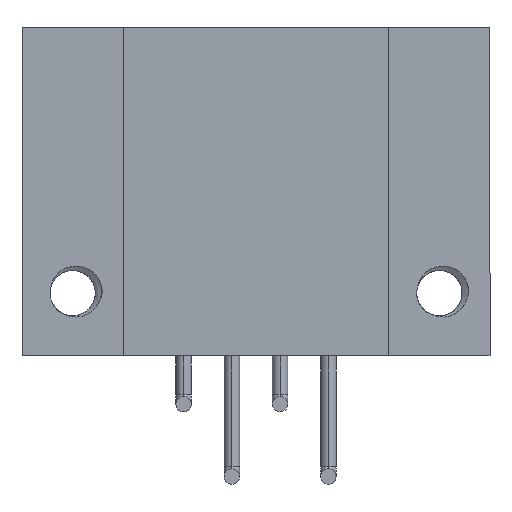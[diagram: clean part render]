
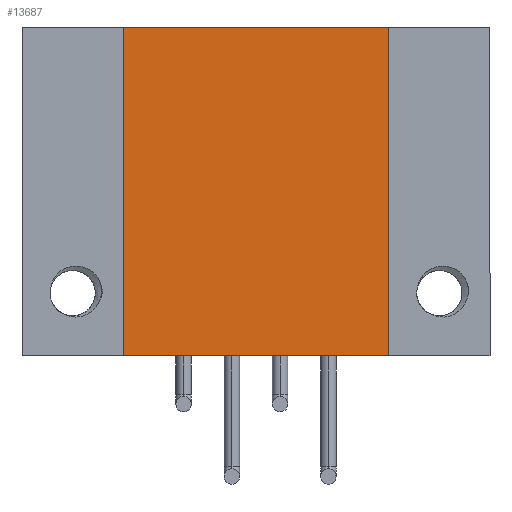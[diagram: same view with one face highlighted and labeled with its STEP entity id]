
A CAD part, front view. The second image highlights one B-rep face of the part: STEP entity #13687.
In plain terms, the highlighted planar face has unit normal (0, -1, 0).
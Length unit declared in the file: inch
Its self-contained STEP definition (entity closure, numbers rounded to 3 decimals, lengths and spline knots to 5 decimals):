
#1953 = LINE ( 'NONE', #24761, #14810 ) ;
#2292 = LINE ( 'NONE', #23001, #18619 ) ;
#3745 = EDGE_CURVE ( 'NONE', #18043, #12663, #12393, .T. ) ;
#3892 = CARTESIAN_POINT ( 'NONE',  ( 0.1375, -0.0625, 0. ) ) ;
#4606 = FACE_OUTER_BOUND ( 'NONE', #23978, .T. ) ;
#6869 = LINE ( 'NONE', #16395, #7207 ) ;
#7004 = DIRECTION ( 'NONE',  ( 0., -1., 0. ) ) ;
#7207 = VECTOR ( 'NONE', #20552, 39.37008 ) ;
#7355 = ORIENTED_EDGE ( 'NONE', *, *, #18179, .T. ) ;
#7435 = PLANE ( 'NONE',  #26032 ) ;
#8199 = CARTESIAN_POINT ( 'NONE',  ( 0.1375, -0.0625, -0.34 ) ) ;
#9319 = EDGE_CURVE ( 'NONE', #27972, #18043, #2292, .T. ) ;
#10028 = ORIENTED_EDGE ( 'NONE', *, *, #15687, .F. ) ;
#10897 = DIRECTION ( 'NONE',  ( 1., 0., 0. ) ) ;
#11391 = DIRECTION ( 'NONE',  ( 1., 0., 0. ) ) ;
#12393 = LINE ( 'NONE', #21912, #27687 ) ;
#12544 = DIRECTION ( 'NONE',  ( 0., 0., -1. ) ) ;
#12663 = VERTEX_POINT ( 'NONE', #8199 ) ;
#13687 = ADVANCED_FACE ( 'NONE', ( #4606 ), #7435, .T. ) ;
#14810 = VECTOR ( 'NONE', #10897, 39.37008 ) ;
#15687 = EDGE_CURVE ( 'NONE', #16150, #27972, #6869, .T. ) ;
#16150 = VERTEX_POINT ( 'NONE', #17396 ) ;
#16274 = ORIENTED_EDGE ( 'NONE', *, *, #3745, .F. ) ;
#16395 = CARTESIAN_POINT ( 'NONE',  ( -0.1375, -0.0625, 0. ) ) ;
#17396 = CARTESIAN_POINT ( 'NONE',  ( -0.1375, -0.0625, -0.34 ) ) ;
#18043 = VERTEX_POINT ( 'NONE', #3892 ) ;
#18179 = EDGE_CURVE ( 'NONE', #16150, #12663, #1953, .T. ) ;
#18332 = DIRECTION ( 'NONE',  ( 0., 0., -1. ) ) ;
#18619 = VECTOR ( 'NONE', #11391, 39.37008 ) ;
#20321 = ORIENTED_EDGE ( 'NONE', *, *, #9319, .F. ) ;
#20541 = CARTESIAN_POINT ( 'NONE',  ( -0.2425, -0.0625, -0.34 ) ) ;
#20552 = DIRECTION ( 'NONE',  ( 0., 0., 1. ) ) ;
#21912 = CARTESIAN_POINT ( 'NONE',  ( 0.1375, -0.0625, 0. ) ) ;
#23001 = CARTESIAN_POINT ( 'NONE',  ( -0.2425, -0.0625, 0. ) ) ;
#23072 = CARTESIAN_POINT ( 'NONE',  ( -0.1375, -0.0625, 0. ) ) ;
#23978 = EDGE_LOOP ( 'NONE', ( #7355, #16274, #20321, #10028 ) ) ;
#24761 = CARTESIAN_POINT ( 'NONE',  ( -0.2425, -0.0625, -0.34 ) ) ;
#26032 = AXIS2_PLACEMENT_3D ( 'NONE', #20541, #7004, #18332 ) ;
#27687 = VECTOR ( 'NONE', #12544, 39.37008 ) ;
#27972 = VERTEX_POINT ( 'NONE', #23072 ) ;
